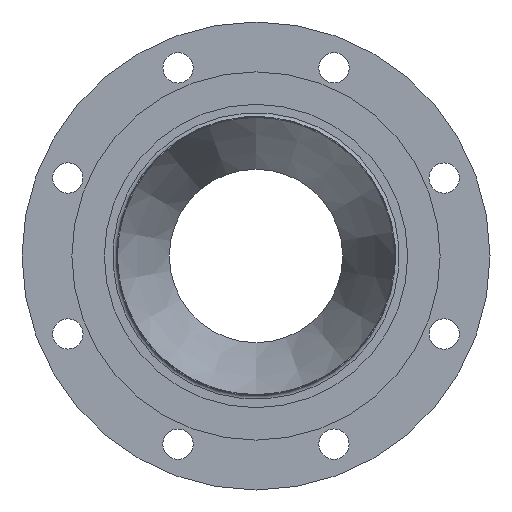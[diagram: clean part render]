
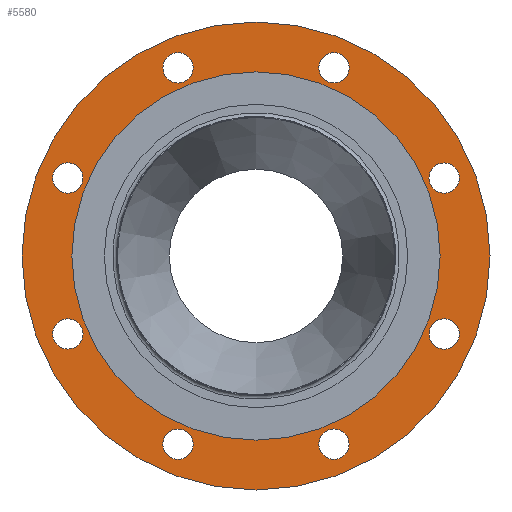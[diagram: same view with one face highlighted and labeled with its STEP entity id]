
A CAD part, front view. The second image highlights one B-rep face of the part: STEP entity #5580.
In plain terms, the highlighted planar face has unit normal (0, -1, 0) as drawn and (0, 1, 0) by its records, which use the part's own axes.
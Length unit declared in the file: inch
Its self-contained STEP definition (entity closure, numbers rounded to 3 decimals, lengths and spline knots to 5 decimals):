
#5241=CARTESIAN_POINT('',(-1.93891,0.9375,5.73715));
#5242=VERTEX_POINT('',#5241);
#5243=CARTESIAN_POINT('',(-2.24827,0.9375,5.42779));
#5244=DIRECTION('',(0.0,-1.0,0.0));
#5245=DIRECTION('',(0.707,0.0,0.707));
#5246=AXIS2_PLACEMENT_3D('',#5243,#5244,#5245);
#5247=CIRCLE('',#5246,0.4375);
#5248=EDGE_CURVE('',#5242,#5242,#5247,.T.);
#5269=CARTESIAN_POINT('',(-5.42779,0.9375,2.68577));
#5270=VERTEX_POINT('',#5269);
#5271=CARTESIAN_POINT('',(-5.42779,0.9375,2.24827));
#5272=DIRECTION('',(0.0,-1.0,0.0));
#5273=DIRECTION('',(0.0,0.0,1.0));
#5274=AXIS2_PLACEMENT_3D('',#5271,#5272,#5273);
#5275=CIRCLE('',#5274,0.4375);
#5276=EDGE_CURVE('',#5270,#5270,#5275,.T.);
#5297=CARTESIAN_POINT('',(-5.73715,0.9375,-1.93891));
#5298=VERTEX_POINT('',#5297);
#5299=CARTESIAN_POINT('',(-5.42779,0.9375,-2.24827));
#5300=DIRECTION('',(0.0,-1.0,0.0));
#5301=DIRECTION('',(-0.707,0.0,0.707));
#5302=AXIS2_PLACEMENT_3D('',#5299,#5300,#5301);
#5303=CIRCLE('',#5302,0.4375);
#5304=EDGE_CURVE('',#5298,#5298,#5303,.T.);
#5325=CARTESIAN_POINT('',(-2.68577,0.9375,-5.42779));
#5326=VERTEX_POINT('',#5325);
#5327=CARTESIAN_POINT('',(-2.24827,0.9375,-5.42779));
#5328=DIRECTION('',(0.0,-1.0,0.0));
#5329=DIRECTION('',(-1.0,0.0,0.0));
#5330=AXIS2_PLACEMENT_3D('',#5327,#5328,#5329);
#5331=CIRCLE('',#5330,0.4375);
#5332=EDGE_CURVE('',#5326,#5326,#5331,.T.);
#5353=CARTESIAN_POINT('',(1.93891,0.9375,-5.73715));
#5354=VERTEX_POINT('',#5353);
#5355=CARTESIAN_POINT('',(2.24827,0.9375,-5.42779));
#5356=DIRECTION('',(0.0,-1.0,0.0));
#5357=DIRECTION('',(-0.707,0.0,-0.707));
#5358=AXIS2_PLACEMENT_3D('',#5355,#5356,#5357);
#5359=CIRCLE('',#5358,0.4375);
#5360=EDGE_CURVE('',#5354,#5354,#5359,.T.);
#5381=CARTESIAN_POINT('',(5.42779,0.9375,-2.68577));
#5382=VERTEX_POINT('',#5381);
#5383=CARTESIAN_POINT('',(5.42779,0.9375,-2.24827));
#5384=DIRECTION('',(0.0,-1.0,0.0));
#5385=DIRECTION('',(0.0,0.0,-1.0));
#5386=AXIS2_PLACEMENT_3D('',#5383,#5384,#5385);
#5387=CIRCLE('',#5386,0.4375);
#5388=EDGE_CURVE('',#5382,#5382,#5387,.T.);
#5409=CARTESIAN_POINT('',(5.73715,0.9375,1.93891));
#5410=VERTEX_POINT('',#5409);
#5411=CARTESIAN_POINT('',(5.42779,0.9375,2.24827));
#5412=DIRECTION('',(0.0,-1.0,0.0));
#5413=DIRECTION('',(0.707,0.0,-0.707));
#5414=AXIS2_PLACEMENT_3D('',#5411,#5412,#5413);
#5415=CIRCLE('',#5414,0.4375);
#5416=EDGE_CURVE('',#5410,#5410,#5415,.T.);
#5437=CARTESIAN_POINT('',(2.68577,0.9375,5.42779));
#5438=VERTEX_POINT('',#5437);
#5439=CARTESIAN_POINT('',(2.24827,0.9375,5.42779));
#5440=DIRECTION('',(0.0,-1.0,0.0));
#5441=DIRECTION('',(1.0,0.0,0.0));
#5442=AXIS2_PLACEMENT_3D('',#5439,#5440,#5441);
#5443=CIRCLE('',#5442,0.4375);
#5444=EDGE_CURVE('',#5438,#5438,#5443,.T.);
#5465=CARTESIAN_POINT('',(5.3125,0.9375,0.));
#5466=VERTEX_POINT('',#5465);
#5467=CARTESIAN_POINT('',(0.0,0.9375,0.0));
#5468=DIRECTION('',(0.0,-1.0,0.0));
#5469=DIRECTION('',(-1.0,0.0,0.0));
#5470=AXIS2_PLACEMENT_3D('',#5467,#5468,#5469);
#5471=CIRCLE('',#5470,5.3125);
#5472=EDGE_CURVE('',#5466,#5466,#5471,.T.);
#5522=CARTESIAN_POINT('',(-6.75,0.9375,0.));
#5523=VERTEX_POINT('',#5522);
#5524=CARTESIAN_POINT('',(0.0,0.9375,0.0));
#5525=DIRECTION('',(0.0,-1.0,0.0));
#5526=DIRECTION('',(1.0,0.0,0.0));
#5527=AXIS2_PLACEMENT_3D('',#5524,#5525,#5526);
#5528=CIRCLE('',#5527,6.75);
#5529=EDGE_CURVE('',#5523,#5523,#5528,.T.);
#5545=CARTESIAN_POINT('',(0.0,0.9375,0.0));
#5546=DIRECTION('',(0.0,-1.0,0.0));
#5547=DIRECTION('',(0.0,0.0,-1.0));
#5548=AXIS2_PLACEMENT_3D('',#5545,#5546,#5547);
#5549=PLANE('',#5548);
#5550=ORIENTED_EDGE('',*,*,#5529,.F.);
#5551=EDGE_LOOP('',(#5550));
#5552=FACE_OUTER_BOUND('',#5551,.T.);
#5553=ORIENTED_EDGE('',*,*,#5248,.T.);
#5554=EDGE_LOOP('',(#5553));
#5555=FACE_BOUND('',#5554,.T.);
#5556=ORIENTED_EDGE('',*,*,#5276,.T.);
#5557=EDGE_LOOP('',(#5556));
#5558=FACE_BOUND('',#5557,.T.);
#5559=ORIENTED_EDGE('',*,*,#5304,.T.);
#5560=EDGE_LOOP('',(#5559));
#5561=FACE_BOUND('',#5560,.T.);
#5562=ORIENTED_EDGE('',*,*,#5332,.T.);
#5563=EDGE_LOOP('',(#5562));
#5564=FACE_BOUND('',#5563,.T.);
#5565=ORIENTED_EDGE('',*,*,#5360,.T.);
#5566=EDGE_LOOP('',(#5565));
#5567=FACE_BOUND('',#5566,.T.);
#5568=ORIENTED_EDGE('',*,*,#5388,.T.);
#5569=EDGE_LOOP('',(#5568));
#5570=FACE_BOUND('',#5569,.T.);
#5571=ORIENTED_EDGE('',*,*,#5416,.T.);
#5572=EDGE_LOOP('',(#5571));
#5573=FACE_BOUND('',#5572,.T.);
#5574=ORIENTED_EDGE('',*,*,#5444,.T.);
#5575=EDGE_LOOP('',(#5574));
#5576=FACE_BOUND('',#5575,.T.);
#5577=ORIENTED_EDGE('',*,*,#5472,.T.);
#5578=EDGE_LOOP('',(#5577));
#5579=FACE_BOUND('',#5578,.T.);
#5580=ADVANCED_FACE('',(#5552,#5555,#5558,#5561,#5564,#5567,#5570,#5573,#5576,#5579),#5549,.F.);
